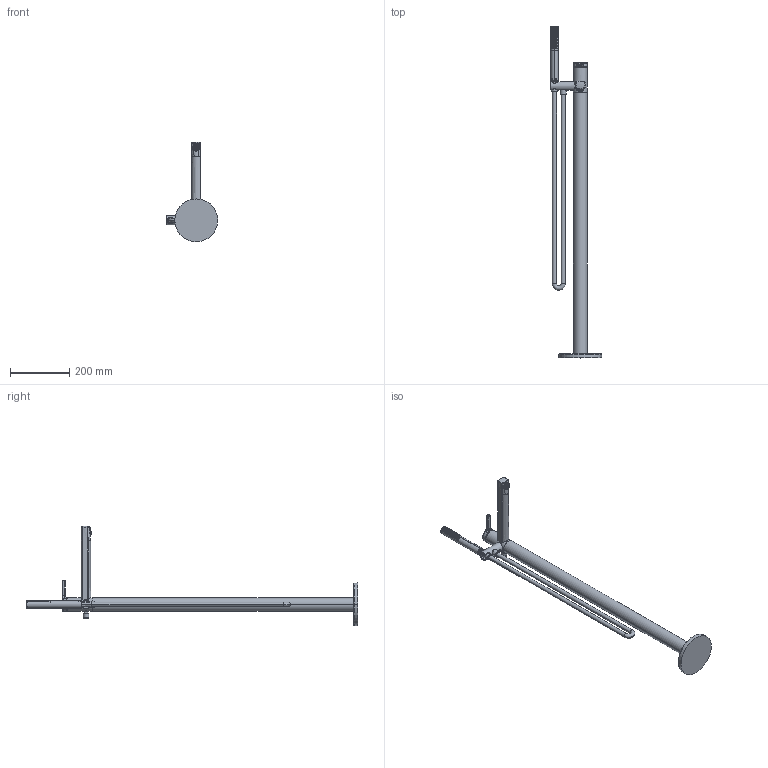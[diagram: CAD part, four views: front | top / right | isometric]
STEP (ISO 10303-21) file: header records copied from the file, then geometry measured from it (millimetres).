
FILE_DESCRIPTION((''),'2;1');
FILE_NAME('20461093','2020-04-30T09:10:06',('LT980'),(''),'CREO PARAMETRIC BY PTC INC, 2018500','CREO PARAMETRIC BY PTC INC, 2018500','');
FILE_SCHEMA(('CONFIG_CONTROL_DESIGN'));
Products named in the file (1): 20461093
Bounding box: 174 x 1124.54 x 337.35 mm (x, y, z)
Volume: 2415343.8 mm3; surface area: 341175.2 mm2
Topology: 3 solids, 7 shells, 1720 faces, 4481 edges, 2828 vertices
Faces by surface type: cylinder 502, plane 459, cone 330, bspline 247, torus 176, sphere 6
Entity records: 134244 total; most frequent: CARTESIAN_POINT 94619, ORIENTED_EDGE 8950, DIRECTION 7072, EDGE_CURVE 4475, AXIS2_PLACEMENT_3D 2859, VERTEX_POINT 2828, EDGE_LOOP 2103, B_SPLINE_CURVE_WITH_KNOTS 1735
